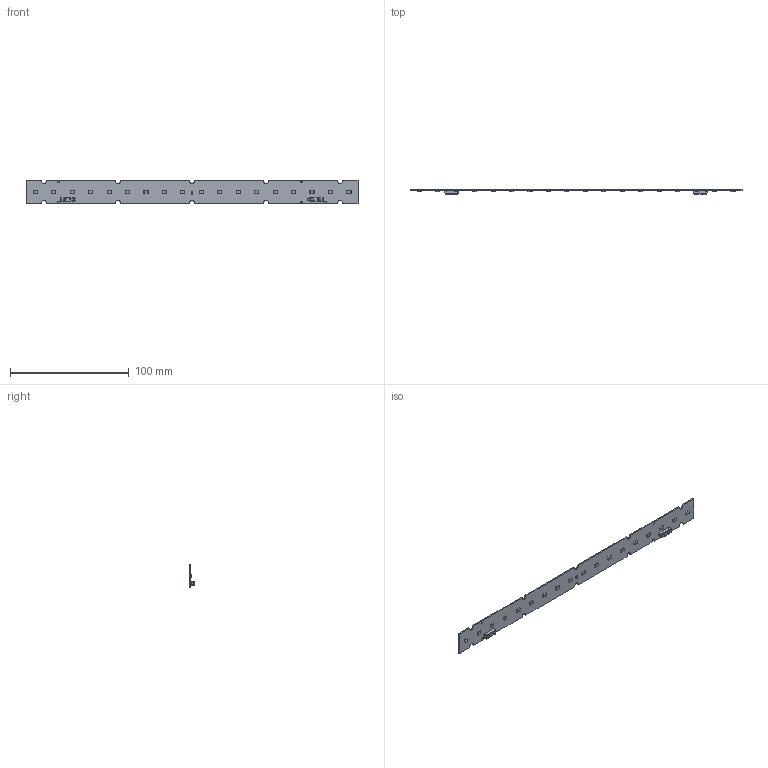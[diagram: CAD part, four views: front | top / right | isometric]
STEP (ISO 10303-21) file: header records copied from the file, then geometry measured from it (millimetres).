
FILE_DESCRIPTION(/* description */ ('Unknown'),/* implementation_level */ '2;1');
FILE_NAME(/* name */ 'LinLED 280x20mm 550lm(18x2835) 2C sh-000 2018-06-13',/* time_stamp */ '2018-06-13T10:49:08+02:00',/* author */ ('Unknown'),/* organization */ ('Unknown'),/* preprocessor_version */ 'ST-DEVELOPER v16.7',/* originating_system */ 'DEX',/* authorisation */ $);
FILE_SCHEMA (('AUTOMOTIVE_DESIGN {1 0 10303 214 3 1 1}'));
Length unit declared in the file: millimetre
Products named in the file (1): LinLED 280x20mm 550lm(18x2835) 2C sh-000 2018-06-13
Bounding box: 280 x 4.5 x 20 mm (x, y, z)
Volume: 5886.5 mm3; surface area: 12272.3 mm2
Topology: 3 solids, 3 shells, 917 faces, 2365 edges, 1508 vertices
Faces by surface type: plane 598, cylinder 137, bspline 126, cone 30, sphere 16, torus 10
Full cylindrical faces by diameter (mm): 1.5 x1
Entity records: 33707 total; most frequent: CARTESIAN_POINT 9506, ORIENTED_EDGE 4680, DIRECTION 3754, EDGE_CURVE 2340, LINE 1666, VECTOR 1666, VERTEX_POINT 1502, AXIS2_PLACEMENT_3D 1044
